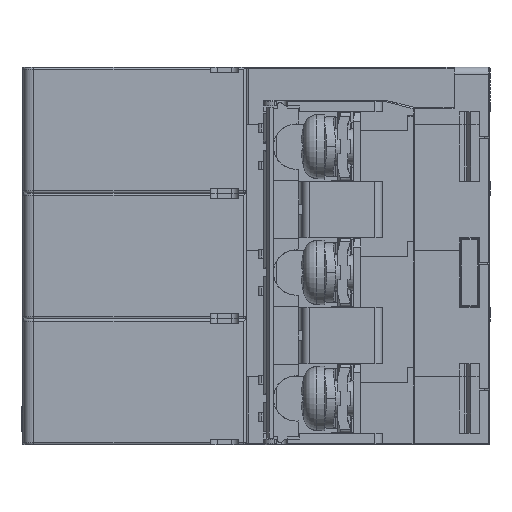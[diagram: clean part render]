
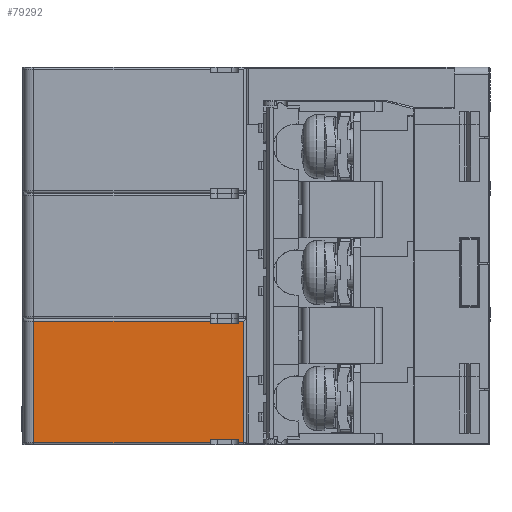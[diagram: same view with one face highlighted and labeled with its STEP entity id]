
A CAD part, left-side view. The second image highlights one B-rep face of the part: STEP entity #79292.
In plain terms, the highlighted planar face has unit normal (-1, 0, 0) as drawn and (1, 0, 0) by its records, which use the part's own axes.
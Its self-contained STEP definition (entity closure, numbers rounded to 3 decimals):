
#2011 = EDGE_CURVE ( 'NONE', #62874, #23760, #19960, .T. ) ;
#2544 = CARTESIAN_POINT ( 'NONE',  ( 4.8, 5., -8.05 ) ) ;
#2748 = VECTOR ( 'NONE', #74104, 1000. ) ;
#3322 = CARTESIAN_POINT ( 'NONE',  ( 4.8, 0.3, 8.75 ) ) ;
#3867 = ORIENTED_EDGE ( 'NONE', *, *, #66683, .T. ) ;
#5237 = LINE ( 'NONE', #80825, #71996 ) ;
#5888 = CARTESIAN_POINT ( 'NONE',  ( 4.8, 0., 8.45 ) ) ;
#6608 = VERTEX_POINT ( 'NONE', #8201 ) ;
#7274 = ORIENTED_EDGE ( 'NONE', *, *, #105882, .F. ) ;
#8201 = CARTESIAN_POINT ( 'NONE',  ( 4.8, 5., 8.45 ) ) ;
#14392 = DIRECTION ( 'NONE',  ( 0., 1., 0. ) ) ;
#15807 = VECTOR ( 'NONE', #73706, 1000. ) ;
#16679 = CARTESIAN_POINT ( 'NONE',  ( 4.8, 5., 8.05 ) ) ;
#18118 = ORIENTED_EDGE ( 'NONE', *, *, #68742, .T. ) ;
#18390 = VECTOR ( 'NONE', #23689, 1000. ) ;
#19276 = DIRECTION ( 'NONE',  ( 0., 0., 1. ) ) ;
#19320 = VECTOR ( 'NONE', #79042, 1000. ) ;
#19960 = LINE ( 'NONE', #44110, #61766 ) ;
#20666 = VERTEX_POINT ( 'NONE', #67333 ) ;
#20746 = ORIENTED_EDGE ( 'NONE', *, *, #93705, .F. ) ;
#20788 = EDGE_CURVE ( 'NONE', #42794, #94362, #41968, .T. ) ;
#21350 = CARTESIAN_POINT ( 'NONE',  ( 4.8, 1., -8.05 ) ) ;
#23009 = CARTESIAN_POINT ( 'NONE',  ( 4.8, 0.3, -8.45 ) ) ;
#23689 = DIRECTION ( 'NONE',  ( 0., 0., 1. ) ) ;
#23760 = VERTEX_POINT ( 'NONE', #59455 ) ;
#25245 = DIRECTION ( 'NONE',  ( 0., -1., 0. ) ) ;
#25425 = VERTEX_POINT ( 'NONE', #101553 ) ;
#26951 = EDGE_LOOP ( 'NONE', ( #45942, #65880, #87019, #104379, #73248, #7274, #20746, #109897, #3867, #92680, #18118, #64630 ) ) ;
#28435 = CARTESIAN_POINT ( 'NONE',  ( 4.8, 0.3, 8.45 ) ) ;
#29337 = EDGE_CURVE ( 'NONE', #25425, #68406, #94560, .T. ) ;
#35509 = DIRECTION ( 'NONE',  ( 0., 1., 0. ) ) ;
#41968 = LINE ( 'NONE', #104717, #18390 ) ;
#42159 = EDGE_CURVE ( 'NONE', #56391, #6608, #105303, .T. ) ;
#42794 = VERTEX_POINT ( 'NONE', #79197 ) ;
#43090 = DIRECTION ( 'NONE',  ( 0., 0., 1. ) ) ;
#44110 = CARTESIAN_POINT ( 'NONE',  ( 4.8, 29.5, -8.45 ) ) ;
#45942 = ORIENTED_EDGE ( 'NONE', *, *, #64341, .F. ) ;
#46692 = VECTOR ( 'NONE', #102578, 1000. ) ;
#50175 = CARTESIAN_POINT ( 'NONE',  ( 4.8, 29.5, 8.45 ) ) ;
#51315 = LINE ( 'NONE', #59961, #19320 ) ;
#56391 = VERTEX_POINT ( 'NONE', #66244 ) ;
#56602 = VECTOR ( 'NONE', #14392, 1000. ) ;
#57929 = CARTESIAN_POINT ( 'NONE',  ( 4.8, 5., 8.05 ) ) ;
#58160 = DIRECTION ( 'NONE',  ( -1., 0., 0. ) ) ;
#58872 = EDGE_CURVE ( 'NONE', #68406, #62874, #98041, .T. ) ;
#59455 = CARTESIAN_POINT ( 'NONE',  ( 4.8, 1., -8.45 ) ) ;
#59961 = CARTESIAN_POINT ( 'NONE',  ( 4.8, 5., -8.05 ) ) ;
#61766 = VECTOR ( 'NONE', #106509, 1000. ) ;
#62874 = VERTEX_POINT ( 'NONE', #23009 ) ;
#63555 = CARTESIAN_POINT ( 'NONE',  ( 4.8, 29.5, -8.45 ) ) ;
#64341 = EDGE_CURVE ( 'NONE', #103149, #56391, #84561, .T. ) ;
#64630 = ORIENTED_EDGE ( 'NONE', *, *, #42159, .F. ) ;
#64969 = FACE_OUTER_BOUND ( 'NONE', #26951, .T. ) ;
#65880 = ORIENTED_EDGE ( 'NONE', *, *, #107463, .T. ) ;
#66244 = CARTESIAN_POINT ( 'NONE',  ( 4.8, 5., 8.05 ) ) ;
#66683 = EDGE_CURVE ( 'NONE', #20666, #42794, #83917, .T. ) ;
#67333 = CARTESIAN_POINT ( 'NONE',  ( 4.8, 5., -8.45 ) ) ;
#68406 = VERTEX_POINT ( 'NONE', #28435 ) ;
#68742 = EDGE_CURVE ( 'NONE', #94362, #6608, #104986, .T. ) ;
#70061 = VECTOR ( 'NONE', #35509, 1000. ) ;
#70377 = VERTEX_POINT ( 'NONE', #21350 ) ;
#71577 = VECTOR ( 'NONE', #25245, 1000. ) ;
#71996 = VECTOR ( 'NONE', #19276, 1000. ) ;
#73248 = ORIENTED_EDGE ( 'NONE', *, *, #2011, .T. ) ;
#73706 = DIRECTION ( 'NONE',  ( 0., 0., -1. ) ) ;
#73727 = CARTESIAN_POINT ( 'NONE',  ( 4.8, 0., 8.45 ) ) ;
#74104 = DIRECTION ( 'NONE',  ( 0., -1., 0. ) ) ;
#76873 = CARTESIAN_POINT ( 'NONE',  ( 4.8, 1., 8.05 ) ) ;
#77837 = EDGE_CURVE ( 'NONE', #92050, #20666, #51315, .T. ) ;
#79042 = DIRECTION ( 'NONE',  ( 0., 0., -1. ) ) ;
#79197 = CARTESIAN_POINT ( 'NONE',  ( 4.8, 29.5, -8.45 ) ) ;
#79292 = ADVANCED_FACE ( 'NONE', ( #64969 ), #112681, .F. ) ;
#80825 = CARTESIAN_POINT ( 'NONE',  ( 4.8, 1., 8.05 ) ) ;
#83917 = LINE ( 'NONE', #63555, #70061 ) ;
#84561 = LINE ( 'NONE', #57929, #56602 ) ;
#85074 = CARTESIAN_POINT ( 'NONE',  ( 4.8, 0., 8.75 ) ) ;
#85350 = LINE ( 'NONE', #113343, #102103 ) ;
#87019 = ORIENTED_EDGE ( 'NONE', *, *, #29337, .T. ) ;
#92050 = VERTEX_POINT ( 'NONE', #2544 ) ;
#92680 = ORIENTED_EDGE ( 'NONE', *, *, #20788, .T. ) ;
#93220 = CARTESIAN_POINT ( 'NONE',  ( 4.8, 5., -8.05 ) ) ;
#93618 = DIRECTION ( 'NONE',  ( 0., 0., 1. ) ) ;
#93705 = EDGE_CURVE ( 'NONE', #92050, #70377, #95452, .T. ) ;
#94362 = VERTEX_POINT ( 'NONE', #50175 ) ;
#94560 = LINE ( 'NONE', #73727, #2748 ) ;
#95452 = LINE ( 'NONE', #93220, #46692 ) ;
#98041 = LINE ( 'NONE', #3322, #15807 ) ;
#101553 = CARTESIAN_POINT ( 'NONE',  ( 4.8, 1., 8.45 ) ) ;
#102103 = VECTOR ( 'NONE', #114151, 1000. ) ;
#102578 = DIRECTION ( 'NONE',  ( 0., -1., 0. ) ) ;
#103149 = VERTEX_POINT ( 'NONE', #76873 ) ;
#104379 = ORIENTED_EDGE ( 'NONE', *, *, #58872, .T. ) ;
#104717 = CARTESIAN_POINT ( 'NONE',  ( 4.8, 29.5, 8.75 ) ) ;
#104986 = LINE ( 'NONE', #5888, #71577 ) ;
#105303 = LINE ( 'NONE', #16679, #113669 ) ;
#105882 = EDGE_CURVE ( 'NONE', #70377, #23760, #85350, .T. ) ;
#106509 = DIRECTION ( 'NONE',  ( 0., 1., 0. ) ) ;
#107463 = EDGE_CURVE ( 'NONE', #103149, #25425, #5237, .T. ) ;
#109897 = ORIENTED_EDGE ( 'NONE', *, *, #77837, .T. ) ;
#112313 = AXIS2_PLACEMENT_3D ( 'NONE', #85074, #58160, #93618 ) ;
#112681 = PLANE ( 'NONE',  #112313 ) ;
#113343 = CARTESIAN_POINT ( 'NONE',  ( 4.8, 1., -8.05 ) ) ;
#113669 = VECTOR ( 'NONE', #43090, 1000. ) ;
#114151 = DIRECTION ( 'NONE',  ( 0., 0., -1. ) ) ;
